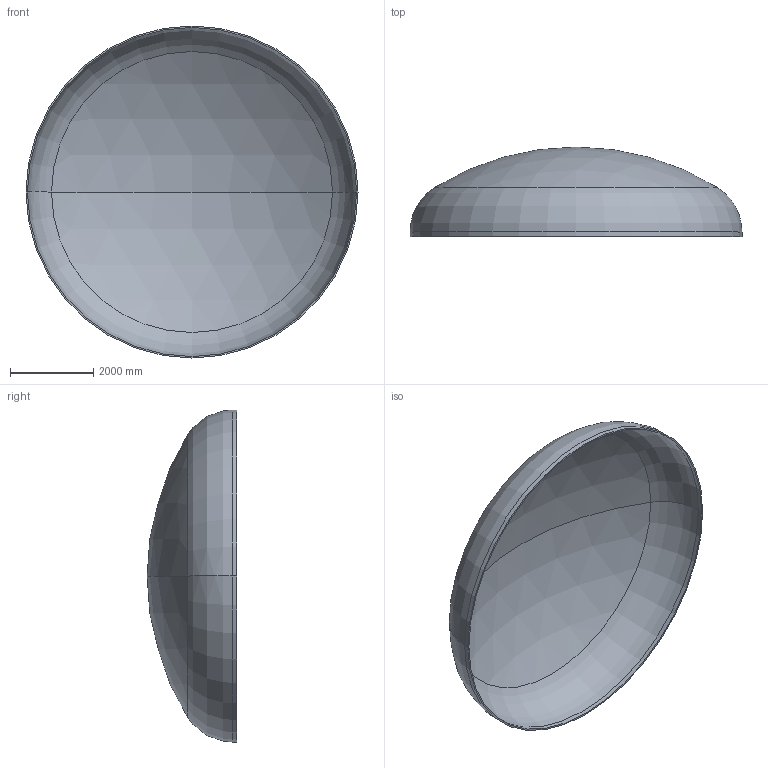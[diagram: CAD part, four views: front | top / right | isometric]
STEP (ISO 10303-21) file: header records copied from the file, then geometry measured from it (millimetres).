
FILE_DESCRIPTION (( 'STEP AP203' ), '1' );
FILE_NAME ('DIN 28013 Korbbogenform_-_Boden DIN 28013 - 8000 x 110 - I - s=35.step', '2016-07-04T11:00:47', ( '' ), ( '' ), 'SwSTEP 2.0', 'SolidWorks 2013', '' );
FILE_SCHEMA (( 'CONFIG_CONTROL_DESIGN' ));
Length unit declared in the file: millimetre
Products named in the file (1): DIN 28013 Korbbogenform_-_Boden DIN 28013 - 8000 x 110 - I - s=35
Bounding box: 8000 x 2157.67 x 8000 mm (x, y, z)
Volume: 2518222840 mm3; surface area: 144776753.6 mm2
Topology: 1 solids, 1 shells, 13 faces, 24 edges, 14 vertices
Faces by surface type: torus 4, cylinder 4, sphere 4, plane 1
Entity records: 407 total; most frequent: DIRECTION 72, CARTESIAN_POINT 52, ORIENTED_EDGE 48, AXIS2_PLACEMENT_3D 34, EDGE_CURVE 24, CIRCLE 20, VERTEX_POINT 14, EDGE_LOOP 14
